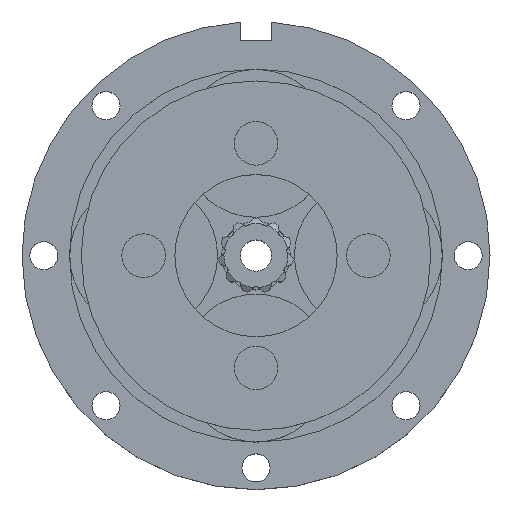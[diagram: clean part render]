
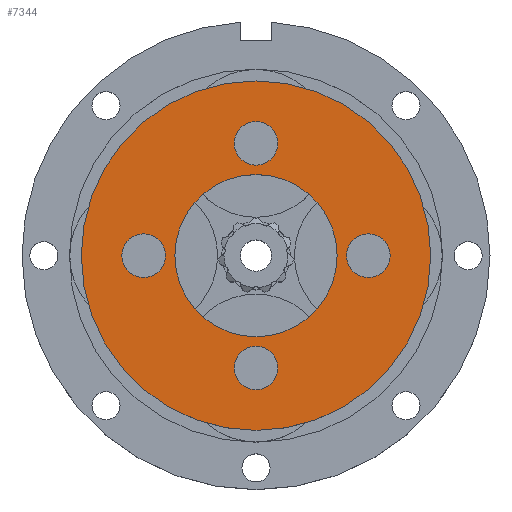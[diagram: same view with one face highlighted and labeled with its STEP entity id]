
A CAD part, top view. The second image highlights one B-rep face of the part: STEP entity #7344.
In plain terms, the highlighted planar face has unit normal (0, 0, 1).
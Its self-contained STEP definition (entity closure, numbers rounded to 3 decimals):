
#144 = DIRECTION ( 'NONE',  ( 0., 0., 1. ) ) ;
#188 = CARTESIAN_POINT ( 'NONE',  ( -3.5, -18., 8.35 ) ) ;
#278 = DIRECTION ( 'NONE',  ( 1., 0., 0. ) ) ;
#538 = ORIENTED_EDGE ( 'NONE', *, *, #13828, .F. ) ;
#551 = FACE_OUTER_BOUND ( 'NONE', #1942, .T. ) ;
#693 = ORIENTED_EDGE ( 'NONE', *, *, #14464, .F. ) ;
#723 = EDGE_CURVE ( 'NONE', #1461, #12500, #1564, .T. ) ;
#788 = ORIENTED_EDGE ( 'NONE', *, *, #5500, .F. ) ;
#883 = EDGE_CURVE ( 'NONE', #13291, #12479, #14671, .T. ) ;
#955 = DIRECTION ( 'NONE',  ( 0., 0., 1. ) ) ;
#1018 = CIRCLE ( 'NONE', #11636, 3.5 ) ;
#1213 = VERTEX_POINT ( 'NONE', #3204 ) ;
#1273 = ORIENTED_EDGE ( 'NONE', *, *, #8672, .F. ) ;
#1370 = AXIS2_PLACEMENT_3D ( 'NONE', #14129, #2508, #10637 ) ;
#1379 = ORIENTED_EDGE ( 'NONE', *, *, #1874, .T. ) ;
#1408 = AXIS2_PLACEMENT_3D ( 'NONE', #4070, #5467, #10153 ) ;
#1461 = VERTEX_POINT ( 'NONE', #9775 ) ;
#1501 = CARTESIAN_POINT ( 'NONE',  ( -18., -3.5, 8.35 ) ) ;
#1519 = DIRECTION ( 'NONE',  ( 0., 0., 1. ) ) ;
#1564 = CIRCLE ( 'NONE', #13918, 3.5 ) ;
#1786 = DIRECTION ( 'NONE',  ( 0., 0., 1. ) ) ;
#1874 = EDGE_CURVE ( 'NONE', #9243, #4134, #9512, .T. ) ;
#1942 = EDGE_LOOP ( 'NONE', ( #13953, #1379 ) ) ;
#1956 = EDGE_CURVE ( 'NONE', #12479, #13291, #7786, .T. ) ;
#2230 = CARTESIAN_POINT ( 'NONE',  ( 18., 0., 8.35 ) ) ;
#2449 = VERTEX_POINT ( 'NONE', #7591 ) ;
#2508 = DIRECTION ( 'NONE',  ( 0., 0., 1. ) ) ;
#2668 = DIRECTION ( 'NONE',  ( 0., 0., 1. ) ) ;
#2681 = ORIENTED_EDGE ( 'NONE', *, *, #883, .F. ) ;
#2866 = CARTESIAN_POINT ( 'NONE',  ( 18., -3.5, 8.35 ) ) ;
#3143 = AXIS2_PLACEMENT_3D ( 'NONE', #5749, #4738, #3569 ) ;
#3204 = CARTESIAN_POINT ( 'NONE',  ( 13., 0., 8.35 ) ) ;
#3265 = EDGE_CURVE ( 'NONE', #4134, #9243, #14719, .T. ) ;
#3374 = VERTEX_POINT ( 'NONE', #11109 ) ;
#3569 = DIRECTION ( 'NONE',  ( 1., 0., 0. ) ) ;
#3620 = VERTEX_POINT ( 'NONE', #1501 ) ;
#4070 = CARTESIAN_POINT ( 'NONE',  ( -18., 0., 8.35 ) ) ;
#4115 = CARTESIAN_POINT ( 'NONE',  ( -3.5, 18., 8.35 ) ) ;
#4116 = PLANE ( 'NONE',  #8381 ) ;
#4134 = VERTEX_POINT ( 'NONE', #12315 ) ;
#4367 = CIRCLE ( 'NONE', #12024, 13. ) ;
#4478 = EDGE_CURVE ( 'NONE', #11345, #3620, #14009, .T. ) ;
#4700 = EDGE_LOOP ( 'NONE', ( #693, #5179 ) ) ;
#4738 = DIRECTION ( 'NONE',  ( 0., 0., 1. ) ) ;
#4792 = VERTEX_POINT ( 'NONE', #188 ) ;
#4933 = DIRECTION ( 'NONE',  ( 0., 1., 0. ) ) ;
#5159 = CARTESIAN_POINT ( 'NONE',  ( -18., 0., 8.35 ) ) ;
#5179 = ORIENTED_EDGE ( 'NONE', *, *, #723, .F. ) ;
#5183 = DIRECTION ( 'NONE',  ( -1., 0., 0. ) ) ;
#5467 = DIRECTION ( 'NONE',  ( 0., 0., 1. ) ) ;
#5500 = EDGE_CURVE ( 'NONE', #1213, #3374, #4367, .T. ) ;
#5507 = FACE_BOUND ( 'NONE', #6764, .T. ) ;
#5749 = CARTESIAN_POINT ( 'NONE',  ( 0., 18., 8.35 ) ) ;
#5874 = DIRECTION ( 'NONE',  ( 0., 0., 1. ) ) ;
#6237 = DIRECTION ( 'NONE',  ( 1., 0., 0. ) ) ;
#6253 = CARTESIAN_POINT ( 'NONE',  ( 28., 0., 8.35 ) ) ;
#6553 = AXIS2_PLACEMENT_3D ( 'NONE', #12037, #2668, #278 ) ;
#6764 = EDGE_LOOP ( 'NONE', ( #538, #7947 ) ) ;
#6842 = CIRCLE ( 'NONE', #13026, 3.5 ) ;
#7260 = DIRECTION ( 'NONE',  ( 1., 0., 0. ) ) ;
#7344 = ADVANCED_FACE ( 'NONE', ( #5507, #9976, #10198, #10942, #551, #14726 ), #4116, .T. ) ;
#7591 = CARTESIAN_POINT ( 'NONE',  ( 3.5, -18., 8.35 ) ) ;
#7765 = ORIENTED_EDGE ( 'NONE', *, *, #14834, .F. ) ;
#7786 = CIRCLE ( 'NONE', #1370, 3.5 ) ;
#7812 = CARTESIAN_POINT ( 'NONE',  ( 0., 18., 8.35 ) ) ;
#7947 = ORIENTED_EDGE ( 'NONE', *, *, #4478, .F. ) ;
#8294 = AXIS2_PLACEMENT_3D ( 'NONE', #8558, #1519, #6237 ) ;
#8381 = AXIS2_PLACEMENT_3D ( 'NONE', #8835, #1786, #8906 ) ;
#8425 = CARTESIAN_POINT ( 'NONE',  ( 0., 0., 8.35 ) ) ;
#8490 = CARTESIAN_POINT ( 'NONE',  ( 18., 3.5, 8.35 ) ) ;
#8558 = CARTESIAN_POINT ( 'NONE',  ( 0., 0., 8.35 ) ) ;
#8638 = DIRECTION ( 'NONE',  ( 0., 0., 1. ) ) ;
#8672 = EDGE_CURVE ( 'NONE', #4792, #2449, #1018, .T. ) ;
#8742 = AXIS2_PLACEMENT_3D ( 'NONE', #2230, #5874, #12766 ) ;
#8815 = DIRECTION ( 'NONE',  ( 0., 0., 1. ) ) ;
#8835 = CARTESIAN_POINT ( 'NONE',  ( 0., 0., 8.35 ) ) ;
#8906 = DIRECTION ( 'NONE',  ( 1., 0., 0. ) ) ;
#9243 = VERTEX_POINT ( 'NONE', #6253 ) ;
#9304 = DIRECTION ( 'NONE',  ( -1., 0., 0. ) ) ;
#9494 = DIRECTION ( 'NONE',  ( 1., 0., 0. ) ) ;
#9512 = CIRCLE ( 'NONE', #6553, 28. ) ;
#9775 = CARTESIAN_POINT ( 'NONE',  ( 3.5, 18., 8.35 ) ) ;
#9976 = FACE_BOUND ( 'NONE', #11346, .T. ) ;
#10121 = CARTESIAN_POINT ( 'NONE',  ( -18., 3.5, 8.35 ) ) ;
#10153 = DIRECTION ( 'NONE',  ( 0., 1., 0. ) ) ;
#10180 = CARTESIAN_POINT ( 'NONE',  ( 0., -18., 8.35 ) ) ;
#10198 = FACE_BOUND ( 'NONE', #11207, .T. ) ;
#10637 = DIRECTION ( 'NONE',  ( 0., -1., 0. ) ) ;
#10942 = FACE_BOUND ( 'NONE', #4700, .T. ) ;
#11109 = CARTESIAN_POINT ( 'NONE',  ( -13., 0., 8.35 ) ) ;
#11207 = EDGE_LOOP ( 'NONE', ( #2681, #14216 ) ) ;
#11345 = VERTEX_POINT ( 'NONE', #10121 ) ;
#11346 = EDGE_LOOP ( 'NONE', ( #12320, #1273 ) ) ;
#11567 = CIRCLE ( 'NONE', #3143, 3.5 ) ;
#11636 = AXIS2_PLACEMENT_3D ( 'NONE', #11637, #955, #9304 ) ;
#11637 = CARTESIAN_POINT ( 'NONE',  ( 0., -18., 8.35 ) ) ;
#12024 = AXIS2_PLACEMENT_3D ( 'NONE', #8425, #144, #9494 ) ;
#12037 = CARTESIAN_POINT ( 'NONE',  ( 0., 0., 8.35 ) ) ;
#12315 = CARTESIAN_POINT ( 'NONE',  ( -28., 0., 8.35 ) ) ;
#12320 = ORIENTED_EDGE ( 'NONE', *, *, #12979, .F. ) ;
#12479 = VERTEX_POINT ( 'NONE', #2866 ) ;
#12500 = VERTEX_POINT ( 'NONE', #4115 ) ;
#12560 = AXIS2_PLACEMENT_3D ( 'NONE', #14304, #14143, #7260 ) ;
#12721 = CIRCLE ( 'NONE', #14712, 3.5 ) ;
#12766 = DIRECTION ( 'NONE',  ( 0., -1., 0. ) ) ;
#12847 = EDGE_LOOP ( 'NONE', ( #7765, #788 ) ) ;
#12979 = EDGE_CURVE ( 'NONE', #2449, #4792, #12721, .T. ) ;
#13026 = AXIS2_PLACEMENT_3D ( 'NONE', #5159, #8638, #4933 ) ;
#13057 = CIRCLE ( 'NONE', #12560, 13. ) ;
#13291 = VERTEX_POINT ( 'NONE', #8490 ) ;
#13771 = DIRECTION ( 'NONE',  ( 0., 0., 1. ) ) ;
#13828 = EDGE_CURVE ( 'NONE', #3620, #11345, #6842, .T. ) ;
#13918 = AXIS2_PLACEMENT_3D ( 'NONE', #7812, #13771, #14939 ) ;
#13953 = ORIENTED_EDGE ( 'NONE', *, *, #3265, .T. ) ;
#14009 = CIRCLE ( 'NONE', #1408, 3.5 ) ;
#14129 = CARTESIAN_POINT ( 'NONE',  ( 18., 0., 8.35 ) ) ;
#14143 = DIRECTION ( 'NONE',  ( 0., 0., 1. ) ) ;
#14216 = ORIENTED_EDGE ( 'NONE', *, *, #1956, .F. ) ;
#14304 = CARTESIAN_POINT ( 'NONE',  ( 0., 0., 8.35 ) ) ;
#14464 = EDGE_CURVE ( 'NONE', #12500, #1461, #11567, .T. ) ;
#14671 = CIRCLE ( 'NONE', #8742, 3.5 ) ;
#14712 = AXIS2_PLACEMENT_3D ( 'NONE', #10180, #8815, #5183 ) ;
#14719 = CIRCLE ( 'NONE', #8294, 28. ) ;
#14726 = FACE_BOUND ( 'NONE', #12847, .T. ) ;
#14834 = EDGE_CURVE ( 'NONE', #3374, #1213, #13057, .T. ) ;
#14939 = DIRECTION ( 'NONE',  ( 1., 0., 0. ) ) ;
